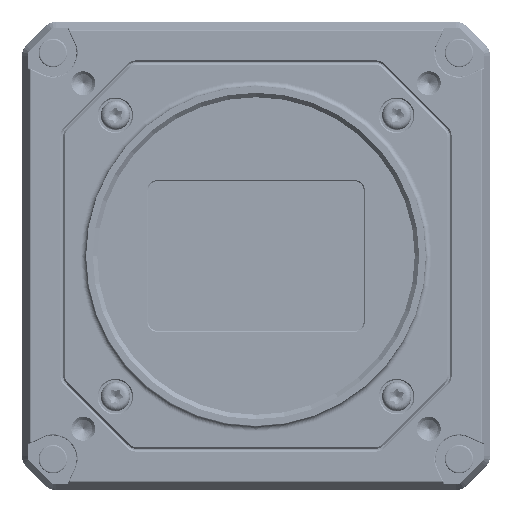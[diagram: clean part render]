
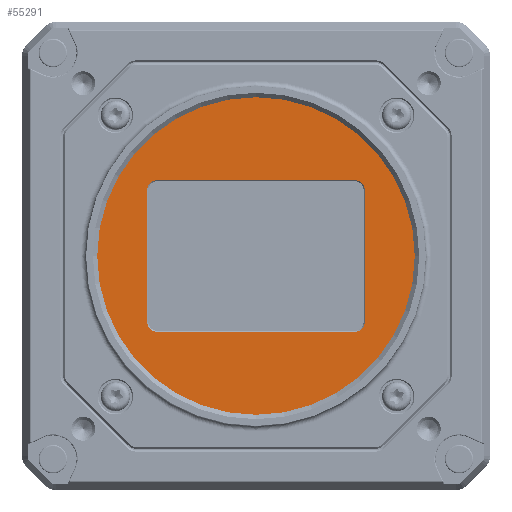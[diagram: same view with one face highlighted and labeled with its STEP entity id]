
A CAD part, left-side view. The second image highlights one B-rep face of the part: STEP entity #55291.
In plain terms, the highlighted planar face has unit normal (-1, 0, 0).
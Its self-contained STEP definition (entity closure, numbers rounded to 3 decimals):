
#10414=CARTESIAN_POINT('',(4.65,0.,0.));
#10415=DIRECTION('',(1.,0.,0.));
#10416=DIRECTION('',(0.,0.,-1.));
#10417=AXIS2_PLACEMENT_3D('',#10414,#10415,#10416);
#10419=CARTESIAN_POINT('',(4.65,0.,0.));
#10420=DIRECTION('',(1.,0.,0.));
#10421=DIRECTION('',(0.,0.,1.));
#10422=AXIS2_PLACEMENT_3D('',#10419,#10420,#10421);
#10424=CARTESIAN_POINT('',(4.65,17.8,11.9));
#10425=DIRECTION('',(-1.,0.,0.));
#10426=DIRECTION('',(0.,0.,1.));
#10427=AXIS2_PLACEMENT_3D('',#10424,#10425,#10426);
#10429=DIRECTION('',(0.,0.,-1.));
#10430=VECTOR('',#10429,23.8);
#10431=CARTESIAN_POINT('',(4.65,19.5,11.9));
#10432=LINE('',#10431,#10430);
#10433=CARTESIAN_POINT('',(4.65,17.8,-11.9));
#10434=DIRECTION('',(-1.,0.,0.));
#10435=DIRECTION('',(0.,1.,0.));
#10436=AXIS2_PLACEMENT_3D('',#10433,#10434,#10435);
#10438=CARTESIAN_POINT('',(4.65,-17.8,-11.9));
#10439=DIRECTION('',(-1.,0.,0.));
#10440=DIRECTION('',(0.,0.,-1.));
#10441=AXIS2_PLACEMENT_3D('',#10438,#10439,#10440);
#10443=CARTESIAN_POINT('',(4.65,-17.8,11.9));
#10444=DIRECTION('',(-1.,0.,0.));
#10445=DIRECTION('',(0.,-1.,0.));
#10446=AXIS2_PLACEMENT_3D('',#10443,#10444,#10445);
#10465=DIRECTION('',(0.,-1.,0.));
#10466=VECTOR('',#10465,35.6);
#10467=CARTESIAN_POINT('',(4.65,17.8,13.6));
#10468=LINE('',#10467,#10466);
#10486=DIRECTION('',(0.,0.,-1.));
#10487=VECTOR('',#10486,23.8);
#10488=CARTESIAN_POINT('',(4.65,-19.5,
11.9));
#10489=LINE('',#10488,#10487);
#10507=DIRECTION('',(0.,1.,0.));
#10508=VECTOR('',#10507,35.6);
#10509=CARTESIAN_POINT('',(4.65,-17.8,
-13.6));
#10510=LINE('',#10509,#10508);
#34102=CARTESIAN_POINT('',(4.65,0.,-29.25));
#34103=CARTESIAN_POINT('',(4.65,0.,29.25));
#34104=VERTEX_POINT('',#34102);
#34105=VERTEX_POINT('',#34103);
#34106=CARTESIAN_POINT('',(4.65,17.8,13.6));
#34107=CARTESIAN_POINT('',(4.65,19.5,11.9));
#34108=VERTEX_POINT('',#34106);
#34109=VERTEX_POINT('',#34107);
#34110=CARTESIAN_POINT('',(4.65,19.5,
-11.9));
#34111=VERTEX_POINT('',#34110);
#34112=CARTESIAN_POINT('',(4.65,17.8,-13.6));
#34113=VERTEX_POINT('',#34112);
#34114=CARTESIAN_POINT('',(4.65,-17.8,
-13.6));
#34115=VERTEX_POINT('',#34114);
#34116=CARTESIAN_POINT('',(4.65,-19.5,-11.9));
#34117=VERTEX_POINT('',#34116);
#34118=CARTESIAN_POINT('',(4.65,-19.5,
11.9));
#34119=VERTEX_POINT('',#34118);
#34120=CARTESIAN_POINT('',(4.65,-17.8,13.6));
#34121=VERTEX_POINT('',#34120);
#55263=CARTESIAN_POINT('',(4.65,0.,0.));
#55264=DIRECTION('',(1.,0.,0.));
#55265=DIRECTION('',(0.,-1.,0.));
#55266=AXIS2_PLACEMENT_3D('',#55263,#55264,#55265);
#55267=PLANE('',#55266);
#55268=ORIENTED_EDGE('',*,*,#55253,.T.);
#55270=ORIENTED_EDGE('',*,*,#55269,.T.);
#55271=EDGE_LOOP('',(#55268,#55270));
#55272=FACE_OUTER_BOUND('',#55271,.F.);
#55274=ORIENTED_EDGE('',*,*,#55273,.T.);
#55276=ORIENTED_EDGE('',*,*,#55275,.T.);
#55278=ORIENTED_EDGE('',*,*,#55277,.T.);
#55280=ORIENTED_EDGE('',*,*,#55279,.F.);
#55282=ORIENTED_EDGE('',*,*,#55281,.T.);
#55284=ORIENTED_EDGE('',*,*,#55283,.F.);
#55286=ORIENTED_EDGE('',*,*,#55285,.T.);
#55288=ORIENTED_EDGE('',*,*,#55287,.F.);
#55289=EDGE_LOOP('',(#55274,#55276,#55278,#55280,#55282,#55284,#55286,#55288));
#55290=FACE_BOUND('',#55289,.F.);
#55291=ADVANCED_FACE('',(#55272,#55290),#55267,.F.);
#10418=CIRCLE('',#10417,29.25);
#10423=CIRCLE('',#10422,29.25);
#10428=CIRCLE('',#10427,1.7);
#10437=CIRCLE('',#10436,1.7);
#10442=CIRCLE('',#10441,1.7);
#10447=CIRCLE('',#10446,1.7);
#55253=EDGE_CURVE('',#34104,#34105,#10418,.T.);
#55269=EDGE_CURVE('',#34105,#34104,#10423,.T.);
#55273=EDGE_CURVE('',#34108,#34109,#10428,.T.);
#55275=EDGE_CURVE('',#34109,#34111,#10432,.T.);
#55277=EDGE_CURVE('',#34111,#34113,#10437,.T.);
#55279=EDGE_CURVE('',#34115,#34113,#10510,.T.);
#55281=EDGE_CURVE('',#34115,#34117,#10442,.T.);
#55283=EDGE_CURVE('',#34119,#34117,#10489,.T.);
#55285=EDGE_CURVE('',#34119,#34121,#10447,.T.);
#55287=EDGE_CURVE('',#34108,#34121,#10468,.T.);
